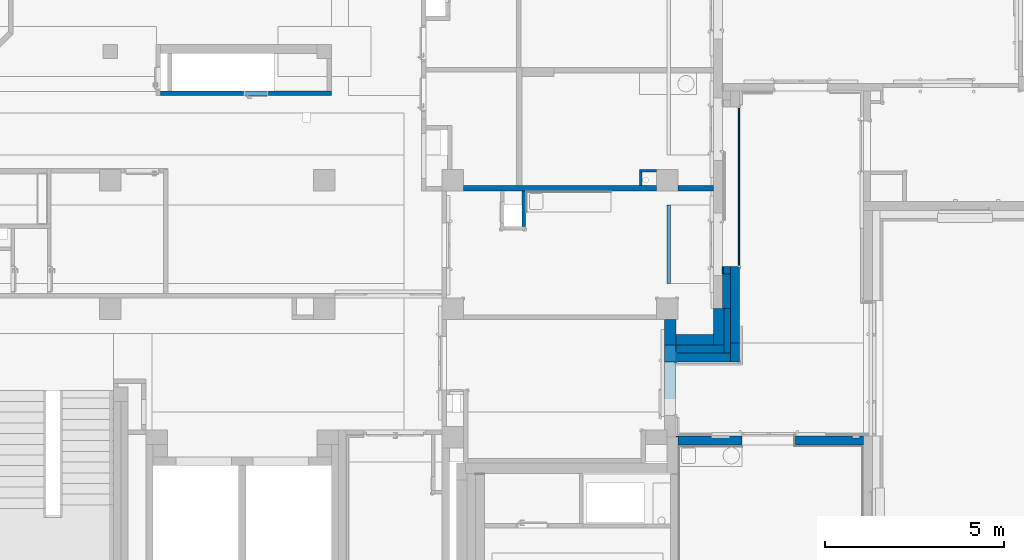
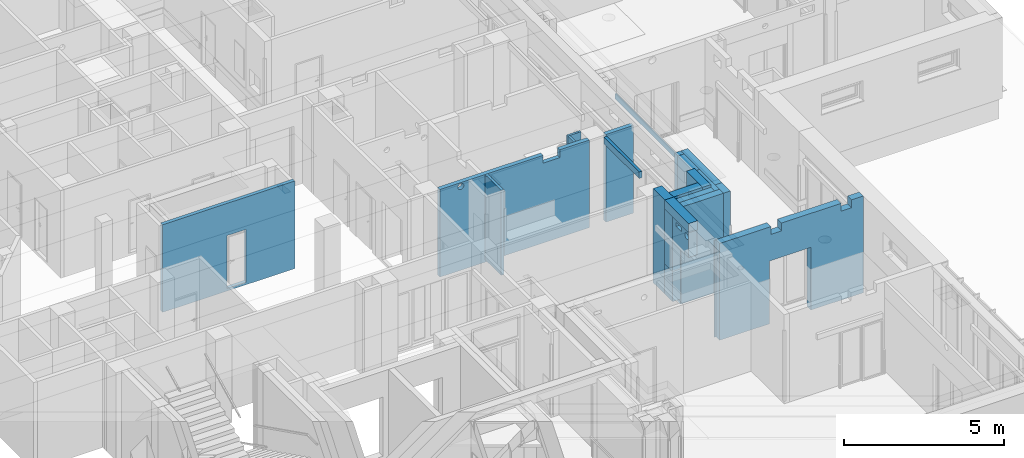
# One storey, part 40 of 140: 24 walls, 13 openings.
"""IFC4 building model written with IfcOpenShell, lengths in metres."""

from ifc_helpers import new_model, entity, si_unit, converted_unit, derived_unit, frame, frame_2d, origin, origin_with_axes, place, context, subcontext, project, spatial, polyline, rectangle, outline, extrude, material, layer, layer_set, layer_usage, element, save


model = new_model("IFC4")

# Units and contexts
model_context = context("Model", 3, precision=1e-05, world=origin())
body_context = subcontext(model_context, "Body", "Model", "MODEL_VIEW")
ifc_project = project(units=[si_unit("LENGTHUNIT", "METRE"), si_unit("AREAUNIT", "SQUARE_METRE"), si_unit("VOLUMEUNIT", "CUBIC_METRE"), si_unit("MASSUNIT", "GRAM", prefix="KILO"), converted_unit("PLANEANGLEUNIT", "DEGREE", entity("IfcPlaneAngleMeasure", 0.0174532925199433), si_unit("PLANEANGLEUNIT", "RADIAN"), dimensions=[0, 0, 0, 0, 0, 0, 0]), derived_unit("THERMALTRANSMITTANCEUNIT", [(si_unit("POWERUNIT", "WATT"), 1), (si_unit("THERMODYNAMICTEMPERATUREUNIT", "KELVIN"), -1), (si_unit("LENGTHUNIT", "METRE"), -2)]), derived_unit("VOLUMETRICFLOWRATEUNIT", [(si_unit("LENGTHUNIT", "METRE"), 3), (converted_unit("TIMEUNIT", "hour", entity("IfcTimeMeasure", 3600.0), si_unit("TIMEUNIT", "SECOND"), dimensions=[0, 0, 1, 0, 0, 0, 0]), -1), (si_unit("LENGTHUNIT", "METRE"), -1)])], contexts=[model_context])

# Site, building, storey
site_placement = place(None, origin())
site = spatial("IfcSite", under=ifc_project, at=site_placement, Name="3. ASŘ", CompositionType="ELEMENT")
building_placement = place(site_placement, origin())
building = spatial("IfcBuilding", under=site, at=building_placement, Name="Pavilon C", CompositionType="ELEMENT")
storey_placement = place(building_placement, origin())
storey = spatial("IfcBuildingStorey", under=building, at=storey_placement, Name="Půdorys 1.NP", CompositionType="ELEMENT", Elevation=0.0)

# Walls
ifc_material_1 = material(Name="ZELEZOBETONOVÁ KCE")
ifc_layer_1 = layer(ifc_material_1, 0.3)
ifc_layer_set_1 = layer_set([ifc_layer_1])
ifc_layer_usage_1 = layer_usage(ifc_layer_set_1, "AXIS2", "POSITIVE", 0.0)
wall_1_placement = place(storey_placement, frame((50.2, 2.58, -0.1)))
element("IfcWall", 1, at=wall_1_placement, inside=storey, material=ifc_layer_usage_1, Name="ZELEZOBETONOVÁ KCE", context=body_context, shape_type="SweptSolid", body=[
    extrude(rectangle(XDim=1.05, YDim=0.3, at=frame_2d((0.525, 0.15), x_axis=(1.0, 0.0))), origin_with_axes(), (0.0, 0.0, 1.0), 3.6),
])
ifc_material_2 = material(Name="ZELEZOBETONOVÁ KCE")
ifc_layer_2 = layer(ifc_material_2, 0.3)
ifc_layer_set_2 = layer_set([ifc_layer_2])
ifc_layer_usage_2 = layer_usage(ifc_layer_set_2, "AXIS2", "POSITIVE", 0.0)
wall_2_placement = place(storey_placement, frame((51.55, 2.58, -0.1), z_axis=(0.0, 0.0, 1.0), x_axis=(0.0, 1.0, 0.0)))
element("IfcWall", 2, at=wall_2_placement, inside=storey, material=ifc_layer_usage_2, Name="ZELEZOBETONOVÁ KCE", context=body_context, shape_type="SweptSolid", body=[
    extrude(rectangle(XDim=1.02, YDim=0.3, at=frame_2d((0.51, 0.15), x_axis=(1.0, 0.0))), origin_with_axes(), (0.0, 0.0, 1.0), 3.6),
])

# Wall, opening
ifc_material_3 = material(Name="ZDIVO Z CDm")
ifc_layer_3 = layer(ifc_material_3, 0.125)
ifc_layer_set_3 = layer_set([ifc_layer_3])
ifc_layer_usage_3 = layer_usage(ifc_layer_set_3, "AXIS2", "POSITIVE", 0.0)
wall_3_placement = place(storey_placement, frame((40.55, 9.69999999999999, -0.1), z_axis=(0.0, 0.0, 1.0), x_axis=(-1.0, 0.0, 0.0)))
wall_3 = element("IfcWall", 3, at=wall_3_placement, inside=storey, material=ifc_layer_usage_3, Name="ZDIVO Z CDm", context=body_context, shape_type="SweptSolid", body=[
    extrude(rectangle(XDim=4.7875, YDim=0.125, at=frame_2d((2.39375, 0.0625), x_axis=(1.0, 0.0))), origin_with_axes(), (0.0, 0.0, 1.0), 3.35),
])
opening_1_placement = place(wall_3_placement, frame((2.46250000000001, 0.125, 0.1), z_axis=(0.0, -1.0, 0.0), x_axis=(0.0, 0.0, 1.0)))
element("IfcOpeningElement", 4, at=opening_1_placement, cuts=wall_3, Name="Dveřní otvor", ObjectType="Opening", context=body_context, shape_type="SweptSolid", body=[
    extrude(outline(polyline([(0.0, 0.7), (2.02, 0.7), (2.02, 0.0), (0.0, 0.0), (0.0, 0.7)])), origin_with_axes(), (0.0, 0.0, 1.0), 0.125),
])

# Wall
ifc_material_4 = material(Name="PLYNOSILIKÁT")
ifc_layer_4 = layer(ifc_material_4, 0.32)
ifc_layer_set_4 = layer_set([ifc_layer_4])
ifc_layer_usage_4 = layer_usage(ifc_layer_set_4, "AXIS2", "POSITIVE", 0.0)
wall_4_placement = place(storey_placement, frame((50.2, 2.58, -0.1), z_axis=(0.0, 0.0, 1.0), x_axis=(0.0, 1.0, 0.0)))
element("IfcWall", 5, at=wall_4_placement, inside=storey, material=ifc_layer_usage_4, Name="PLYNOSILIKÁT", context=body_context, shape_type="SweptSolid", body=[
    extrude(rectangle(XDim=0.719999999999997, YDim=0.32, at=frame_2d((0.359999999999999, 0.16), x_axis=(1.0, 0.0))), origin_with_axes(), (0.0, 0.0, 1.0), 3.6),
])

# Wall, openings
ifc_material_5 = material(Name="PLYNOSILIKÁT")
ifc_layer_5 = layer(ifc_material_5, 0.32)
ifc_layer_set_5 = layer_set([ifc_layer_5])
ifc_layer_usage_5 = layer_usage(ifc_layer_set_5, "AXIS2", "POSITIVE", 0.0)
wall_5_placement = place(storey_placement, frame((50.2, 1.07999999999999, -0.1), z_axis=(0.0, 0.0, 1.0), x_axis=(0.0, 1.0, 0.0)))
wall_5 = element("IfcWall", 6, at=wall_5_placement, inside=storey, material=ifc_layer_usage_5, Name="PLYNOSILIKÁT", context=body_context, shape_type="SweptSolid", body=[
    extrude(rectangle(XDim=1.5, YDim=0.32, at=frame_2d((0.750000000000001, 0.16), x_axis=(1.0, 0.0))), origin_with_axes(), (0.0, 0.0, 1.0), 3.6),
])
opening_2_placement = place(wall_5_placement, frame((1.5, 0.32, 1.15), z_axis=(0.0, -1.0, 0.0), x_axis=(0.0, 0.0, 1.0)))
element("IfcOpeningElement", 7, at=opening_2_placement, cuts=wall_5, Name="Okenní otvor", ObjectType="Opening", context=body_context, shape_type="SweptSolid", body=[
    extrude(outline(polyline([(0.0, 0.48), (2.1, 0.48), (2.1, 0.0), (0.0, 0.0), (0.0, 0.48)])), origin_with_axes(), (0.0, 0.0, 1.0), 0.32),
])
opening_3_placement = place(wall_5_placement, frame((1.02, 0.32, 0.0), z_axis=(0.0, -1.0, 0.0), x_axis=(0.0, 0.0, 1.0)))
element("IfcOpeningElement", 8, at=opening_3_placement, cuts=wall_5, Name="Dveřní otvor", ObjectType="Opening", context=body_context, shape_type="SweptSolid", body=[
    extrude(outline(polyline([(0.0, 1.02), (3.25, 1.02), (3.25, 0.0), (0.0, 0.0), (0.0, 1.02)])), origin_with_axes(), (0.0, 0.0, 1.0), 0.32),
])

# Walls
ifc_material_6 = material(Name="EPS")
ifc_layer_6 = layer(ifc_material_6, 0.1)
ifc_layer_set_6 = layer_set([ifc_layer_6])
ifc_layer_usage_6 = layer_usage(ifc_layer_set_6, "AXIS2", "POSITIVE", 0.0)
wall_6_placement = place(storey_placement, frame((49.95, 6.49999999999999, 3.25), z_axis=(0.0, 0.0, 1.0), x_axis=(0.0, -1.0, 0.0)))
element("IfcWall", 9, at=wall_6_placement, inside=storey, material=ifc_layer_usage_6, Name="EPS", context=body_context, shape_type="SweptSolid", body=[
    extrude(rectangle(XDim=2.2, YDim=0.1, at=frame_2d((1.1, 0.05), x_axis=(1.0, 0.0))), origin_with_axes(), (0.0, 0.0, 1.0), 0.25),
])
ifc_material_7 = material(Name="SDK SVISLA CAST PODHLEDU")
ifc_layer_7 = layer(ifc_material_7, 0.04)
ifc_layer_set_7 = layer_set([ifc_layer_7])
ifc_layer_usage_7 = layer_usage(ifc_layer_set_7, "AXIS2", "POSITIVE", 0.0)
wall_7_placement = place(storey_placement, frame((51.98, 4.77499999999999, 2.6), z_axis=(0.0, 0.0, 1.0), x_axis=(0.0, 1.0, 0.0)))
element("IfcWall", 10, at=wall_7_placement, inside=storey, material=ifc_layer_usage_7, Name="SDK SVISLA CAST PODHLEDU", context=body_context, shape_type="SweptSolid", body=[
    extrude(rectangle(XDim=4.47499999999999, YDim=0.04, at=frame_2d((2.23749999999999, 0.02), x_axis=(1.0, 0.0))), origin_with_axes(), (0.0, 0.0, 1.0), 0.2),
])

# Wall, opening
ifc_material_8 = material(Name="ZELEZOBETONOVÁ KCE")
ifc_layer_8 = layer(ifc_material_8, 0.25)
ifc_layer_set_8 = layer_set([ifc_layer_8])
ifc_layer_usage_8 = layer_usage(ifc_layer_set_8, "AXIS2", "POSITIVE", -0.25)
wall_8_placement = place(storey_placement, frame((51.98, 2.63, -0.15), z_axis=(0.0, 0.0, 1.0), x_axis=(0.0, 1.0, 0.0)))
wall_8 = element("IfcWall", 11, at=wall_8_placement, inside=storey, material=ifc_layer_usage_8, Name="ZELEZOBETONOVÁ KCE", context=body_context, shape_type="SweptSolid", body=[
    extrude(rectangle(XDim=2.14499999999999, YDim=0.25, at=frame_2d((1.0725, 0.125), x_axis=(1.0, 0.0))), origin_with_axes(), (0.0, 0.0, 1.0), 3.55),
])
opening_4_placement = place(wall_8_placement, frame((0.474999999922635, 0.0, 0.0), z_axis=(0.0, 1.0, 0.0), x_axis=(0.0, 0.0, 1.0)))
element("IfcOpeningElement", 12, at=opening_4_placement, cuts=wall_8, Name="Stěnová nika", ObjectType="Opening", context=body_context, shape_type="SweptSolid", body=[
    extrude(outline(polyline([(0.0, 1.37), (1.06, 1.37), (1.06, 0.0), (0.0, 0.0), (0.0, 1.37)])), origin_with_axes(), (0.0, 0.0, 1.0), 0.14),
])

# Walls
ifc_material_9 = material(Name="ZELEZOBETONOVÁ KCE")
ifc_layer_9 = layer(ifc_material_9, 0.25)
ifc_layer_set_9 = layer_set([ifc_layer_9])
ifc_layer_usage_9 = layer_usage(ifc_layer_set_9, "AXIS2", "POSITIVE", -0.125)
wall_9_placement = place(storey_placement, frame((50.2, 2.1, -0.3)))
element("IfcWall", 13, at=wall_9_placement, inside=storey, material=ifc_layer_usage_9, Name="ZELEZOBETONOVÁ KCE", context=body_context, shape_type="SweptSolid", body=[
    extrude(rectangle(XDim=1.53, YDim=0.25, at=frame_2d((0.765, 0.125), x_axis=(1.0, 0.0))), origin_with_axes(), (0.0, 0.0, 1.0), 3.7),
])
ifc_material_10 = material(Name="ZELEZOBETONOVÁ KCE")
ifc_layer_10 = layer(ifc_material_10, 0.200000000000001)
ifc_layer_set_10 = layer_set([ifc_layer_10])
ifc_layer_usage_10 = layer_usage(ifc_layer_set_10, "AXIS2", "POSITIVE", -0.25)
wall_10_placement = place(storey_placement, frame((51.52, 4.57499999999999, -0.15)))
element("IfcWall", 14, at=wall_10_placement, inside=storey, material=ifc_layer_usage_10, Name="ZELEZOBETONOVÁ KCE", context=body_context, shape_type="SweptSolid", body=[
    extrude(rectangle(XDim=0.21, YDim=0.200000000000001, at=frame_2d((0.105, 0.1), x_axis=(1.0, 0.0))), origin_with_axes(), (0.0, 0.0, 1.0), 3.55),
])
ifc_material_11 = material(Name="ZELEZOBETONOVÁ KCE")
ifc_layer_11 = layer(ifc_material_11, 0.25)
ifc_layer_set_11 = layer_set([ifc_layer_11])
ifc_layer_usage_11 = layer_usage(ifc_layer_set_11, "AXIS2", "POSITIVE", 0.0)
wall_11_placement = place(storey_placement, frame((51.98, 2.1, -0.3), z_axis=(0.0, 0.0, 1.0), x_axis=(0.0, 1.0, 0.0)))
element("IfcWall", 15, at=wall_11_placement, inside=storey, material=ifc_layer_usage_11, Name="ZELEZOBETONOVÁ KCE", context=body_context, shape_type="SweptSolid", body=[
    extrude(rectangle(XDim=0.53, YDim=0.25, at=frame_2d((0.265, 0.125), x_axis=(1.0, 0.0))), origin_with_axes(), (0.0, 0.0, 1.0), 3.7),
])
ifc_material_12 = material(Name="EPS")
ifc_layer_12 = layer(ifc_material_12, 0.02)
ifc_layer_set_12 = layer_set([ifc_layer_12])
ifc_layer_usage_12 = layer_usage(ifc_layer_set_12, "AXIS2", "POSITIVE", 0.0)
wall_12_placement = place(storey_placement, frame((50.2, 2.1, -0.3), z_axis=(0.0, 0.0, 1.0), x_axis=(0.0, 1.0, 0.0)))
element("IfcWall", 16, at=wall_12_placement, inside=storey, material=ifc_layer_usage_12, Name="EPS", context=body_context, shape_type="SweptSolid", body=[
    extrude(rectangle(XDim=0.25, YDim=0.02, at=frame_2d((0.125, 0.01), x_axis=(1.0, 0.0))), origin_with_axes(), (0.0, 0.0, 1.0), 3.7),
])
ifc_material_13 = material(Name="EPS")
ifc_layer_13 = layer(ifc_material_13, 0.02)
ifc_layer_set_13 = layer_set([ifc_layer_13])
ifc_layer_usage_13 = layer_usage(ifc_layer_set_13, "AXIS2", "POSITIVE", 0.0)
wall_13_placement = place(storey_placement, frame((51.52, 4.57499999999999, -0.3), z_axis=(0.0, 0.0, 1.0), x_axis=(0.0, 1.0, 0.0)))
element("IfcWall", 17, at=wall_13_placement, inside=storey, material=ifc_layer_usage_13, Name="EPS", context=body_context, shape_type="SweptSolid", body=[
    extrude(rectangle(XDim=0.200000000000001, YDim=0.02, at=frame_2d((0.1, 0.01), x_axis=(1.0, 0.0))), origin_with_axes(), (0.0, 0.0, 1.0), 3.7),
])
ifc_material_14 = material(Name="EPS")
ifc_layer_14 = layer(ifc_material_14, 0.23)
ifc_layer_set_14 = layer_set([ifc_layer_14])
ifc_layer_usage_14 = layer_usage(ifc_layer_set_14, "AXIS2", "POSITIVE", 0.0)
wall_14_placement = place(storey_placement, frame((51.73, 3.6, -0.3), z_axis=(0.0, 0.0, 1.0), x_axis=(0.0, 1.0, 0.0)))
element("IfcWall", 18, at=wall_14_placement, inside=storey, material=ifc_layer_usage_14, Name="EPS", context=body_context, shape_type="SweptSolid", body=[
    extrude(rectangle(XDim=0.974999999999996, YDim=0.23, at=frame_2d((0.487499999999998, 0.115), x_axis=(1.0, 0.0))), origin_with_axes(), (0.0, 0.0, 1.0), 3.7),
])
ifc_material_15 = material(Name="EPS")
ifc_layer_15 = layer(ifc_material_15, 0.18)
ifc_layer_set_15 = layer_set([ifc_layer_15])
ifc_layer_usage_15 = layer_usage(ifc_layer_set_15, "AXIS2", "POSITIVE", 0.0)
wall_15_placement = place(storey_placement, frame((51.73, 2.35, -0.3), z_axis=(0.0, 0.0, 1.0), x_axis=(0.0, 1.0, 0.0)))
element("IfcWall", 19, at=wall_15_placement, inside=storey, material=ifc_layer_usage_15, Name="EPS", context=body_context, shape_type="SweptSolid", body=[
    extrude(rectangle(XDim=1.25, YDim=0.18, at=frame_2d((0.624999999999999, 0.09), x_axis=(1.0, 0.0))), origin_with_axes(), (0.0, 0.0, 1.0), 3.7),
])
ifc_material_16 = material(Name="EPS")
ifc_layer_16 = layer(ifc_material_16, 0.23)
ifc_layer_set_16 = layer_set([ifc_layer_16])
ifc_layer_usage_16 = layer_usage(ifc_layer_set_16, "AXIS2", "POSITIVE", 0.0)
wall_16_placement = place(storey_placement, frame((50.2, 2.35, -0.3)))
element("IfcWall", 20, at=wall_16_placement, inside=storey, material=ifc_layer_usage_16, Name="EPS", context=body_context, shape_type="SweptSolid", body=[
    extrude(rectangle(XDim=1.35, YDim=0.23, at=frame_2d((0.675, 0.115), x_axis=(1.0, 0.0))), origin_with_axes(), (0.0, 0.0, 1.0), 3.7),
])

# Wall, openings
ifc_material_17 = material(Name="YTONG 300")
ifc_layer_17 = layer(ifc_material_17, 0.3)
ifc_layer_set_17 = layer_set([ifc_layer_17])
ifc_layer_usage_17 = layer_usage(ifc_layer_set_17, "AXIS2", "POSITIVE", 0.0)
wall_17_placement = place(storey_placement, frame((49.88, 2.1, 2.2), z_axis=(0.0, 0.0, 1.0), x_axis=(0.0, -1.0, 0.0)))
wall_17 = element("IfcWall", 21, at=wall_17_placement, inside=storey, material=ifc_layer_usage_17, Name="YTONG 300", context=body_context, shape_type="SweptSolid", body=[
    extrude(rectangle(XDim=1.02, YDim=0.3, at=frame_2d((0.510000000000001, 0.15), x_axis=(1.0, 0.0))), origin_with_axes(), (0.0, 0.0, 1.0), 0.95),
])
opening_5_placement = place(wall_17_placement, frame((0.227642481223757, 0.0, 0.72), z_axis=(0.0, 1.0, 0.0), x_axis=(0.0, 0.0, 1.0)))
element("IfcOpeningElement", 22, at=opening_5_placement, cuts=wall_17, Name="ELE", ObjectType="Opening", context=body_context, shape_type="SweptSolid", body=[
    extrude(outline(polyline([(0.0, 0.35), (0.15, 0.35), (0.15, 0.0), (0.0, 0.0), (0.0, 0.35)])), origin_with_axes(), (0.0, 0.0, 1.0), 0.3),
])
opening_6_placement = place(wall_17_placement, frame((0.784248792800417, 0.0, 0.637500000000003), z_axis=(0.0, 1.0, 0.0), x_axis=(0.0, 0.0, 1.0)))
element("IfcOpeningElement", 23, at=opening_6_placement, cuts=wall_17, Name="VZT", ObjectType="Opening", context=body_context, shape_type="SweptSolid", body=[
    extrude(outline(polyline([(0.112499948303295, 0.0), (0.100740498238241, 0.000616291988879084), (0.0891098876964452, 0.00245840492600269), (0.0777355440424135, 0.00550615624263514), (0.0667420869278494, 0.00972615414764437), (0.0562499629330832, 0.0150721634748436), (0.0463741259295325, 0.0214856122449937), (0.037222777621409, 0.0288962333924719), (0.0288961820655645, 0.0372228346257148), (0.021485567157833, 0.0463741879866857), (0.0150721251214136, 0.0562500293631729), (0.00972612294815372, 0.0667421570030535), (0.00550613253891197, 0.077735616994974), (0.00245838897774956, 0.0891099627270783), (0.00061628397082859, 0.100740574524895), (0.0, 0.112500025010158), (0.000616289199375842, 0.124259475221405), (0.00245839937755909, 0.135890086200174), (0.00550614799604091, 0.147264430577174), (0.00972614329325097, 0.158257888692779), (0.0150721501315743, 0.168750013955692), (0.02148559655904, 0.178625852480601), (0.028896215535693, 0.187777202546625), (0.0372228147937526, 0.196103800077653), (0.0463741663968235, 0.203514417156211), (0.0562500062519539, 0.209927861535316), (0.066742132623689, 0.215273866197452), (0.0777355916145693, 0.219493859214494), (0.0891099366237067, 0.222541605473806), (0.100740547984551, 0.224383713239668), (0.112499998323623, 0.225), (0.124259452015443, 0.224383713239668), (0.135890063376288, 0.222541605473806), (0.147264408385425, 0.219493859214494), (0.158257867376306, 0.215273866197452), (0.168749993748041, 0.209927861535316), (0.178625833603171, 0.203514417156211), (0.187777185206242, 0.196103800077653), (0.196103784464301, 0.187777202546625), (0.203514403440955, 0.178625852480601), (0.20992784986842, 0.168750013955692), (0.215273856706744, 0.158257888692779), (0.219493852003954, 0.147264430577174), (0.222541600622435, 0.135890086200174), (0.224383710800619, 0.124259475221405), (0.224999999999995, 0.112500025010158), (0.224383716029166, 0.100740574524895), (0.222541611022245, 0.0891099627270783), (0.219493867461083, 0.077735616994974), (0.215273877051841, 0.0667421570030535), (0.209927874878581, 0.0562500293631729), (0.203514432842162, 0.0463741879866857), (0.19610381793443, 0.0372228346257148), (0.187777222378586, 0.0288962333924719), (0.178625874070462, 0.0214856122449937), (0.168750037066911, 0.0150721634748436), (0.158257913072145, 0.00972615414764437), (0.147264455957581, 0.00550615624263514), (0.135890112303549, 0.00245840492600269), (0.124259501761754, 0.000616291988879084), (0.112499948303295, 0.0)])), origin_with_axes(), (0.0, 0.0, 1.0), 0.3),
])

# Walls
ifc_material_18 = material(Name="YTONG 300")
ifc_layer_18 = layer(ifc_material_18, 0.3)
ifc_layer_set_18 = layer_set([ifc_layer_18])
ifc_layer_usage_18 = layer_usage(ifc_layer_set_18, "AXIS2", "POSITIVE", 0.0)
wall_18_placement = place(storey_placement, frame((49.88, 2.57999999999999, 1.05), z_axis=(0.0, 0.0, 1.0), x_axis=(0.0, -1.0, 0.0)))
element("IfcWall", 24, at=wall_18_placement, inside=storey, material=ifc_layer_usage_18, Name="YTONG 300", context=body_context, shape_type="SweptSolid", body=[
    extrude(rectangle(XDim=0.48, YDim=0.3, at=frame_2d((0.24, 0.15), x_axis=(1.0, 0.0))), origin_with_axes(), (0.0, 0.0, 1.0), 2.1),
])
ifc_material_19 = material(Name="SDK ŠACHTOVÁ STĚNA/SDK OPL. S PO")
ifc_layer_19 = layer(ifc_material_19, 0.075)
ifc_layer_set_19 = layer_set([ifc_layer_19])
ifc_layer_usage_19 = layer_usage(ifc_layer_set_19, "AXIS2", "POSITIVE", 0.0)
wall_19_placement = place(storey_placement, frame((49.25, 7.04999999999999, -0.1), z_axis=(0.0, 0.0, 1.0), x_axis=(0.0, 1.0, 0.0)))
element("IfcWall", 25, at=wall_19_placement, inside=storey, material=ifc_layer_usage_19, Name="SDK ŠACHTOVÁ STĚNA/SDK OPL. S PO", context=body_context, shape_type="SweptSolid", body=[
    extrude(rectangle(XDim=0.375, YDim=0.075, at=frame_2d((0.1875, 0.0375), x_axis=(1.0, 0.0))), origin_with_axes(), (0.0, 0.0, 1.0), 3.35),
])
ifc_material_20 = material(Name="SDK ŠACHTOVÁ STĚNA/SDK OPL. S PO")
ifc_layer_20 = layer(ifc_material_20, 0.075)
ifc_layer_set_20 = layer_set([ifc_layer_20])
ifc_layer_usage_20 = layer_usage(ifc_layer_set_20, "AXIS2", "POSITIVE", 0.0)
wall_20_placement = place(storey_placement, frame((49.175, 7.42499999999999, -0.1)))
element("IfcWall", 26, at=wall_20_placement, inside=storey, material=ifc_layer_usage_20, Name="SDK ŠACHTOVÁ STĚNA/SDK OPL. S PO", context=body_context, shape_type="SweptSolid", body=[
    extrude(rectangle(XDim=0.475, YDim=0.075, at=frame_2d((0.2375, 0.0375), x_axis=(1.0, 0.0))), origin_with_axes(), (0.0, 0.0, 1.0), 3.35),
])
ifc_material_21 = material(Name="SDK ŠACHTOVÁ STĚNA/SDK OPL. S PO")
ifc_layer_21 = layer(ifc_material_21, 0.1)
ifc_layer_set_21 = layer_set([ifc_layer_21])
ifc_layer_usage_21 = layer_usage(ifc_layer_set_21, "AXIS2", "POSITIVE", 0.0)
wall_21_placement = place(storey_placement, frame((45.88, 6.89999999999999, 0.0), z_axis=(0.0, 0.0, 1.0), x_axis=(0.0, -1.0, 0.0)))
element("IfcWall", 27, at=wall_21_placement, inside=storey, material=ifc_layer_usage_21, Name="SDK ŠACHTOVÁ STĚNA/SDK OPL. S PO", context=body_context, shape_type="SweptSolid", body=[
    extrude(rectangle(XDim=1.0, YDim=0.1, at=frame_2d((0.5, 0.05), x_axis=(1.0, 0.0))), origin_with_axes(), (0.0, 0.0, 1.0), 3.25),
])

# Wall, openings
ifc_material_22 = material(Name="SDK - 2 KCE + DVOJITÉ OPLÁŠTĚNÍ")
ifc_layer_22 = layer(ifc_material_22, 0.25)
ifc_layer_set_22 = layer_set([ifc_layer_22])
ifc_layer_usage_22 = layer_usage(ifc_layer_set_22, "AXIS2", "POSITIVE", 0.0)
wall_22_placement = place(storey_placement, frame((50.25, -0.21999999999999, -0.3), z_axis=(0.0, 0.0, 1.0), x_axis=(1.0, -1.31177120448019e-16, 0.0)))
wall_22 = element("IfcWall", 28, at=wall_22_placement, inside=storey, material=ifc_layer_usage_22, Name="SDK - 2 KCE + DVOJITÉ OPLÁŠTĚNÍ", context=body_context, shape_type="SweptSolid", body=[
    extrude(outline(polyline([(0.05, 6.88679882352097e-16), (5.24999999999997, 6.88679882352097e-16), (5.24999999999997, 0.250000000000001), (-3.27942801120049e-17, 0.250000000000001), (-2.88589664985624e-17, 0.219999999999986), (0.05, 0.219999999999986), (0.05, 6.88679882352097e-16)])), frame((-0.05, -6.88679882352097e-16, 0.0), z_axis=(0.0, 0.0, 1.0), x_axis=(1.0, 0.0, 0.0)), (0.0, 0.0, 1.0), 3.7),
])
opening_7_placement = place(wall_22_placement, frame((1.8, 8.74514136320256e-18, 0.0), z_axis=(0.0, 1.0, 0.0), x_axis=(0.0, 0.0, 1.0)))
element("IfcOpeningElement", 29, at=opening_7_placement, cuts=wall_22, Name="Dveřní otvor", ObjectType="Opening", context=body_context, shape_type="SweptSolid", body=[
    extrude(outline(polyline([(0.0, 1.5), (2.4, 1.5), (2.4, 0.0), (0.0, 0.0), (0.0, 1.5)])), origin_with_axes(), (0.0, 0.0, 1.0), 0.25),
])
opening_8_placement = place(wall_22_placement, frame((5.08999999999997, 0.25, 1.3), z_axis=(0.0, -1.0, 0.0), x_axis=(0.0, 0.0, 1.0)))
element("IfcOpeningElement", 30, at=opening_8_placement, cuts=wall_22, Name="Stěnová nika", ObjectType="Opening", context=body_context, shape_type="SweptSolid", body=[
    extrude(outline(polyline([(0.0, 0.2), (0.2, 0.2), (0.2, 0.0), (0.0, 0.0), (0.0, 0.2)])), origin_with_axes(), (0.0, 0.0, 1.0), 0.05),
])
opening_9_placement = place(wall_22_placement, frame((1.45, 0.25, 0.4), z_axis=(0.0, -1.0, 0.0), x_axis=(0.0, 0.0, 1.0)))
element("IfcOpeningElement", 31, at=opening_9_placement, cuts=wall_22, Name="Stěnová nika", ObjectType="Opening", context=body_context, shape_type="SweptSolid", body=[
    extrude(outline(polyline([(0.0, 0.5), (0.5, 0.5), (0.5, 0.0), (0.0, 0.0), (0.0, 0.5)])), origin_with_axes(), (0.0, 0.0, 1.0), 0.05),
])
opening_10_placement = place(wall_22_placement, frame((1.85760601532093, 1.6301732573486e-17, 3.4), z_axis=(0.0, 1.0, 0.0), x_axis=(0.0, 0.0, 1.0)))
element("IfcOpeningElement", 32, at=opening_10_placement, cuts=wall_22, Name="VZT", ObjectType="Opening", context=body_context, shape_type="SweptSolid", body=[
    extrude(outline(polyline([(0.0, 0.38), (0.3, 0.38), (0.3, 0.0), (0.0, 0.0), (0.0, 0.38)])), origin_with_axes(), (0.0, 0.0, 1.0), 0.25),
])
opening_11_placement = place(wall_22_placement, frame((4.39029999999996, 1.21159561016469e-16, 3.4), z_axis=(0.0, 1.0, 0.0), x_axis=(0.0, 0.0, 1.0)))
element("IfcOpeningElement", 33, at=opening_11_placement, cuts=wall_22, Name="VZT", ObjectType="Opening", context=body_context, shape_type="SweptSolid", body=[
    extrude(outline(polyline([(0.0, 0.38), (0.3, 0.38), (0.3, 0.0), (0.0, 0.0), (0.0, 0.38)])), origin_with_axes(), (0.0, 0.0, 1.0), 0.25),
])

ifc_material_23 = material(Name="SDK - 1 KCE + DVOJITÉ OPLÁŠTĚNÍ")
ifc_layer_23 = layer(ifc_material_23, 0.15)
ifc_layer_set_23 = layer_set([ifc_layer_23])
ifc_layer_usage_23 = layer_usage(ifc_layer_set_23, "AXIS2", "POSITIVE", 0.0)
wall_23_placement = place(storey_placement, frame((44.25, 6.89999999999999, -0.1)))
wall_23 = element("IfcWall", 34, at=wall_23_placement, inside=storey, material=ifc_layer_usage_23, Name="SDK - 1 KCE + DVOJITÉ OPLÁŠTĚNÍ", context=body_context, shape_type="SweptSolid", body=[
    extrude(rectangle(XDim=5.4, YDim=0.15, at=frame_2d((2.7, 0.075), x_axis=(1.0, 0.0))), origin_with_axes(), (0.0, 0.0, 1.0), 3.35),
])
opening_12_placement = place(wall_23_placement, frame((0.865573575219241, 0.15, 3.09), z_axis=(0.0, -1.0, 0.0), x_axis=(0.0, 0.0, 1.0)))
element("IfcOpeningElement", 35, at=opening_12_placement, cuts=wall_23, Name="VZT", ObjectType="Opening", context=body_context, shape_type="SweptSolid", body=[
    extrude(outline(polyline([(0.11, 0.22), (0.121498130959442, 0.219397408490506), (0.132870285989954, 0.217596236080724), (0.143991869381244, 0.21461621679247), (0.154741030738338, 0.21049000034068), (0.165, 0.205262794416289), (0.174656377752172, 0.198991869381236), (0.183604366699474, 0.191745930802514), (0.191745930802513, 0.183604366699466), (0.198991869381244, 0.174656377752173), (0.205262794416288, 0.165), (0.210490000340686, 0.15474103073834), (0.214616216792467, 0.143991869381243), (0.217596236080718, 0.132870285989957), (0.21939740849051, 0.121498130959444), (0.22, 0.11), (0.21939740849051, 0.0985018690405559), (0.217596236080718, 0.0871297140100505), (0.214616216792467, 0.0760081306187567), (0.210490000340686, 0.0652589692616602), (0.205262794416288, 0.055), (0.198991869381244, 0.0453436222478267), (0.191745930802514, 0.0363956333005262), (0.183604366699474, 0.0282540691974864), (0.174656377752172, 0.0210081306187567), (0.165, 0.0147372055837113), (0.154741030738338, 0.0095099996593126), (0.143991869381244, 0.00538378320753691), (0.132870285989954, 0.00240376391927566), (0.121498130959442, 0.000602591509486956), (0.11, 0.0), (0.0985018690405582, 0.000602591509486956), (0.0871297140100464, 0.00240376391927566), (0.0760081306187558, 0.00538378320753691), (0.0652589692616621, 0.0095099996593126), (0.055, 0.0147372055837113), (0.0453436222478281, 0.0210081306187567), (0.0363956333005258, 0.0282540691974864), (0.0282540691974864, 0.0363956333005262), (0.0210081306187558, 0.0453436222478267), (0.0147372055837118, 0.055), (0.00950999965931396, 0.0652589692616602), (0.00538378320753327, 0.0760081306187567), (0.00240376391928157, 0.0871297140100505), (0.000602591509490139, 0.0985018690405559), (0.0, 0.11), (0.000602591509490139, 0.121498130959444), (0.00240376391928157, 0.132870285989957), (0.00538378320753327, 0.143991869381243), (0.00950999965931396, 0.15474103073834), (0.0147372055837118, 0.165), (0.0210081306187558, 0.174656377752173), (0.0282540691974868, 0.183604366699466), (0.0363956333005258, 0.191745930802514), (0.0453436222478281, 0.198991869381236), (0.055, 0.205262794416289), (0.0652589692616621, 0.21049000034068), (0.0760081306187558, 0.21461621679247), (0.0871297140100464, 0.217596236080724), (0.0985018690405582, 0.219397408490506), (0.11, 0.22)])), origin_with_axes(), (0.0, 0.0, 1.0), 0.15),
])
opening_13_placement = place(wall_23_placement, frame((3.73278719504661, 0.0, 3.05), z_axis=(0.0, 1.0, 0.0), x_axis=(0.0, 0.0, 1.0)))
element("IfcOpeningElement", 36, at=opening_13_placement, cuts=wall_23, Name="VZT", ObjectType="Opening", context=body_context, shape_type="SweptSolid", body=[
    extrude(outline(polyline([(0.0, 0.6), (0.3, 0.6), (0.3, 0.0), (0.0, 0.0), (0.0, 0.6)])), origin_with_axes(), (0.0, 0.0, 1.0), 0.15),
])

# Wall
ifc_material_24 = material(Name="SDK - 1 KCE + DVOJITÉ OPLÁŠTĚNÍ")
ifc_layer_24 = layer(ifc_material_24, 0.15)
ifc_layer_set_24 = layer_set([ifc_layer_24])
ifc_layer_usage_24 = layer_usage(ifc_layer_set_24, "AXIS2", "POSITIVE", 0.0)
wall_24_placement = place(storey_placement, frame((50.25, 6.89999999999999, -0.1)))
element("IfcWall", 37, at=wall_24_placement, inside=storey, material=ifc_layer_usage_24, Name="SDK - 1 KCE + DVOJITÉ OPLÁŠTĚNÍ", context=body_context, shape_type="SweptSolid", body=[
    extrude(rectangle(XDim=1.0, YDim=0.15, at=frame_2d((0.5, 0.075), x_axis=(1.0, 0.0))), origin_with_axes(), (0.0, 0.0, 1.0), 3.35),
])

save(model, "model.ifc")
